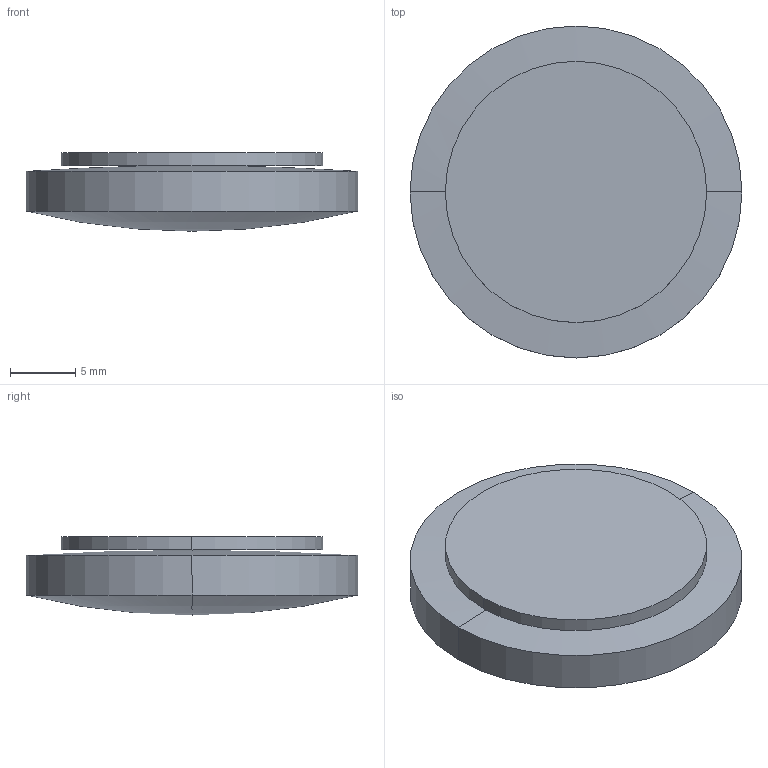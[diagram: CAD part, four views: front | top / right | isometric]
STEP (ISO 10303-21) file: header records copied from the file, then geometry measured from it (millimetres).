
FILE_DESCRIPTION(('STEP AP214'),'1');
FILE_NAME('LLR-25100.STEP','2020-03-09T17:41:57',(' '),(' '),'Spatial InterOp 3D',' ',' ');
FILE_SCHEMA(('AUTOMOTIVE_DESIGN { 1 0 10303 214 1 1 1 1 }'));
Length unit declared in the file: millimetre
Products named in the file (1): 1
Bounding box: 25.4 x 25.4 x 6 mm (x, y, z)
Volume: 2352.2 mm3; surface area: 1954.9 mm2
Topology: 2 solids, 2 shells, 10 faces, 20 edges, 10 vertices
Faces by surface type: sphere 4, cylinder 4, plane 2
Entity records: 255 total; most frequent: DIRECTION 52, CARTESIAN_POINT 38, ORIENTED_EDGE 32, AXIS2_PLACEMENT_3D 24, EDGE_CURVE 16, CIRCLE 12, ADVANCED_FACE 10, FACE_OUTER_BOUND 10
